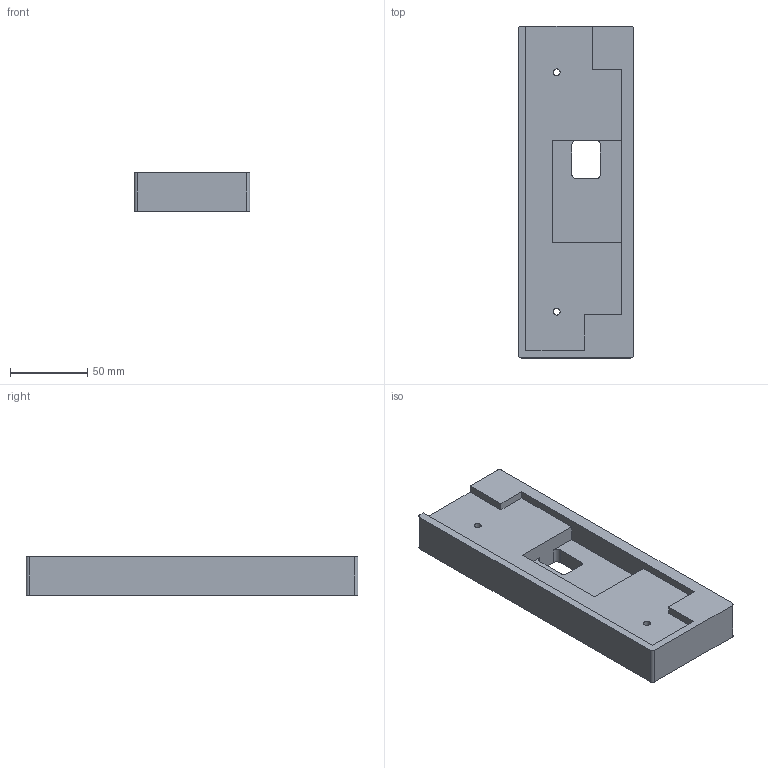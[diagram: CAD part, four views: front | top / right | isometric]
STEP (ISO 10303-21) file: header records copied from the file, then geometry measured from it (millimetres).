
FILE_DESCRIPTION (( 'STEP AP214' ), '1' );
FILE_NAME ('鯤.STEP', '2026-01-21T22:14:06', ( '' ), ( '' ), 'SwSTEP 2.0', 'SolidWorks 2024', '' );
FILE_SCHEMA (( 'AUTOMOTIVE_DESIGN' ));
Length unit declared in the file: millimetre
Products named in the file (1): уЛ
Bounding box: 75 x 215 x 25 mm (x, y, z)
Volume: 308343.9 mm3; surface area: 51555.2 mm2
Topology: 1 solids, 1 shells, 37 faces, 104 edges, 68 vertices
Faces by surface type: plane 21, cylinder 12, cone 4
Entity records: 1229 total; most frequent: CARTESIAN_POINT 210, ORIENTED_EDGE 208, DIRECTION 208, EDGE_CURVE 104, VECTOR 76, LINE 76, VERTEX_POINT 68, AXIS2_PLACEMENT_3D 66
